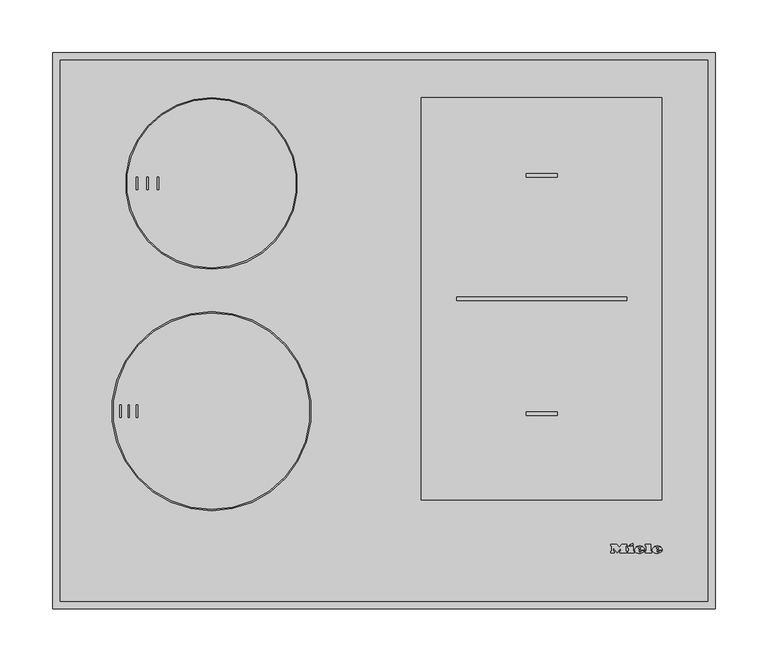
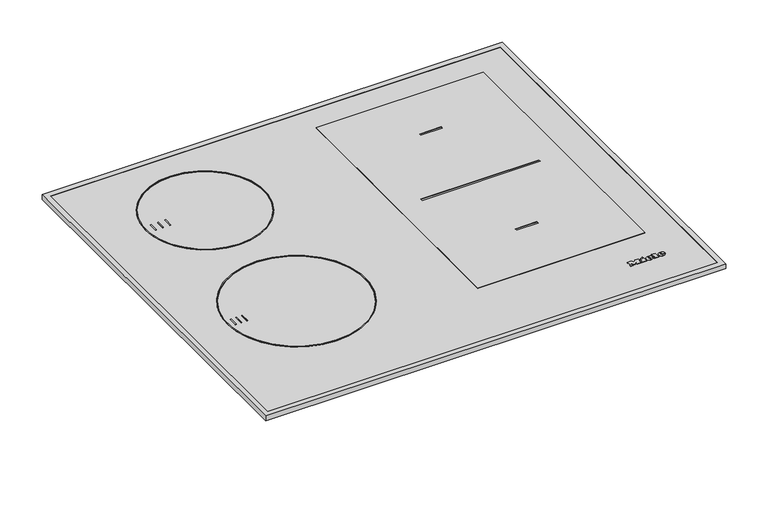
"""IFC4 building model written with IfcOpenShell, lengths in millimetres: proxy geometry, 11022890_D_KM7464FR : 26746400_D_11022890_KM7464FR."""

from ifc_helpers import new_model, si_unit, point, frame, frame_2d, origin, place, context, project, spatial, polyline, circle_curve, ellipse_curve, trimmed, segment, composite_curve, outline, extrude, faceted_brep, source, transform, mapped, element, save
from ifc_brep_helpers import plane_surface, cylinder_surface, revolved_surface, extruded_surface, advanced_brep


def specialty_equipment_9e8c9460(model_context):
    return source(origin(), model_context, "Body", "SolidModel", [
        advanced_brep(
        [(257.66, 54.8948833, 6.4802537), (257.66, 55.7028828, 6.4811551), (263.012, 55.7028828, 6.4811551), (253.7, 55.7028828, 6.4811551), (255.9, 52.9988845, 6.4781386), (262.876, 54.8948833, 6.4802537), (260.46, 54.8948833, 6.4802537), (258.556, 53.9988838, 6.4792542), (257.66, 56.7268821, 6.4822974), (257.66, 57.5988816, 6.4832701), (259.028, 57.5988816, 6.4832701), (259.028, 56.7268821, 6.4822974), (257.66, 54.8959988, 5.4802543), (258.556, 53.9999994, 5.4792548), (260.46, 54.8959988, 5.4802543), (262.876, 54.8959988, 5.4802543), (255.9, 53.0, 5.4781393), (253.7, 55.7039983, 5.4811557), (263.012, 55.7039983, 5.4811557), (257.66, 55.7039983, 5.4811557), (257.66, 56.7279977, 5.482298), (259.028, 56.7279977, 5.482298), (259.028, 57.5999971, 5.4832707), (257.66, 57.5999971, 5.4832707)],
        [
            (0, 1),
            (1, 2),
            (2, 3, ellipse_curve(frame((258.356, 55.7028828, 6.4811551), z_axis=(0.0, -0.0011155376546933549, 0.9999993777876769), x_axis=(-1.0, 0.0, 0.0)), 4.656, 3.848)),
            (3, 4, circle_curve(frame((256.7960436, 55.9748826, 6.4814585), z_axis=(0.0, -0.0011155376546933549, 0.9999993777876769), x_axis=(0.0, -0.9999993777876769, -0.0011155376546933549)), 3.1079688)),
            (4, 5, circle_curve(frame((258.2627936, 58.0868813, 6.4838145), z_axis=(0.0, -0.0011155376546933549, 0.9999993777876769), x_axis=(0.0, -0.9999993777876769, -0.0011155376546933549)), 5.6098607)),
            (5, 6),
            (6, 7, circle_curve(frame((258.9470588, 55.6388828, 6.4810837), z_axis=(0.0, 0.0011155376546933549, -0.9999993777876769), x_axis=(0.0, -0.9999993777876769, -0.0011155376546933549)), 1.6859795)),
            (7, 0, circle_curve(frame((258.556, 54.8948833, 6.4802537), z_axis=(0.0, 0.0011155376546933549, -0.9999993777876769), x_axis=(0.0, -0.9999993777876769, -0.0011155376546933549)), 0.896)),
            (8, 9),
            (9, 10, circle_curve(frame((258.344, 57.5988816, 6.4832701), z_axis=(0.0, 0.0011155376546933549, -0.9999993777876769), x_axis=(0.0, -0.9999993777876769, -0.0011155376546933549)), 0.684)),
            (10, 11),
            (11, 8),
            (12, 13, circle_curve(frame((258.556, 54.8959988, 5.4802543), z_axis=(0.0, -0.0011155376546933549, 0.9999993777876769), x_axis=(0.0, -0.9999993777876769, -0.0011155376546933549)), 0.896)),
            (13, 14, circle_curve(frame((258.9470588, 55.6399984, 5.4810843), z_axis=(0.0, -0.0011155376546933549, 0.9999993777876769), x_axis=(0.0, -0.9999993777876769, -0.0011155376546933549)), 1.6859795)),
            (14, 15),
            (15, 16, circle_curve(frame((258.2627936, 58.0879968, 5.4838151), z_axis=(0.0, 0.0011155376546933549, -0.9999993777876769), x_axis=(0.0, -0.9999993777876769, -0.0011155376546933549)), 5.6098607)),
            (16, 17, circle_curve(frame((256.7960436, 55.9759981, 5.4814591), z_axis=(0.0, 0.0011155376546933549, -0.9999993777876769), x_axis=(0.0, -0.9999993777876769, -0.0011155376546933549)), 3.1079688)),
            (17, 18, ellipse_curve(frame((258.356, 55.7039983, 5.4811557), z_axis=(0.0, 0.0011155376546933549, -0.9999993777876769), x_axis=(-1.0, 0.0, 0.0)), 4.656, 3.848)),
            (18, 19),
            (19, 12),
            (20, 21),
            (21, 22),
            (22, 23, circle_curve(frame((258.344, 57.5999971, 5.4832707), z_axis=(0.0, -0.0011155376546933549, 0.9999993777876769), x_axis=(0.0, -0.9999993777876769, -0.0011155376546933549)), 0.684)),
            (23, 20),
            (0, 12),
            (19, 1),
            (18, 2),
            (5, 15),
            (14, 6),
            (17, 3),
            (13, 7),
            (16, 4),
            (8, 20),
            (23, 9),
            (22, 10),
            (21, 11),
        ],
        [
            plane_surface(frame((257.66, 55.7028828, 6.4811551), z_axis=(0.0, -0.0011155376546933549, 0.9999993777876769), x_axis=(0.0, 0.9999993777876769, 0.0011155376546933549))),
            plane_surface(frame((257.66, 55.7039983, 5.4811557), z_axis=(0.0, 0.0011155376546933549, -0.9999993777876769), x_axis=(0.0, -0.9999993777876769, -0.0011155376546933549))),
            plane_surface(frame((257.66, 54.8948833, 6.4802537), z_axis=(1.0000000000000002, 0.0, 0.0), x_axis=(0.0, 0.001115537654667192, -0.999999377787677))),
            plane_surface(frame((257.66, 55.7028828, 6.4811551), z_axis=(0.0, -0.999999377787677, -0.001115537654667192), x_axis=(0.0, 0.001115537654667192, -0.999999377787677))),
            plane_surface(frame((262.876, 54.8948833, 6.4802537), z_axis=(0.0, 0.999999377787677, 0.001115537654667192), x_axis=(0.0, 0.001115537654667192, -0.999999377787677))),
            extruded_surface(trimmed(ellipse_curve(frame((258.356, 55.7051139, 4.4811563), z_axis=(0.0, -0.0011155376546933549, 0.9999993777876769), x_axis=(-1.0, 0.0, 0.0)), 4.656, 3.848), [point((263.012, 55.7051139, 4.4811563))], [point((253.7, 55.7051139, 4.4811563))], True, "CARTESIAN"), (0.0, -0.001115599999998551, 0.9999994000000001), 1.00000002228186),
            revolved_surface(polyline([(258.9470588, 53.954019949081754, 5.479203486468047), (258.9470588, 53.95290441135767, 6.4792029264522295)]), (258.9470588, 55.6399984, 5.4810843), (0.0, 0.0011155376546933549, -0.9999993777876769)),
            revolved_surface(polyline([(258.556, 53.99999935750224, 5.479254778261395), (258.556, 53.99888381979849, 6.479254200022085)]), (258.556, 54.8959988, 5.4802543), (0.0, 0.0011155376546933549, -0.9999993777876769)),
            cylinder_surface(frame((256.7960436, 55.9759981, 5.4814591), z_axis=(0.0, -0.0011155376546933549, 0.9999993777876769), x_axis=(0.0, -0.9999993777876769, -0.0011155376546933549)), 3.1079688),
            cylinder_surface(frame((258.2627936, 58.0879968, 5.4838151), z_axis=(0.0, -0.0011155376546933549, 0.9999993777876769), x_axis=(0.0, -0.9999993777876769, -0.0011155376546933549)), 5.6098607),
            plane_surface(frame((257.66, 56.7268821, 6.4822974), z_axis=(1.0000000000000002, 0.0, 0.0), x_axis=(0.0, 0.001115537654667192, -0.999999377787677))),
            revolved_surface(polyline([(258.344, 56.915997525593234, 5.48250767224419), (258.344, 56.91488198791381, 6.482507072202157)]), (258.344, 57.5999971, 5.4832707), (0.0, 0.0011155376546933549, -0.9999993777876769)),
            plane_surface(frame((259.028, 57.5988816, 6.4832701), z_axis=(-1.0000000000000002, 0.0, 0.0), x_axis=(0.0, 0.001115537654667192, -0.999999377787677))),
            plane_surface(frame((259.028, 56.7268821, 6.4822974), z_axis=(0.0, 0.999999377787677, 0.001115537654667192), x_axis=(0.0, 0.001115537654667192, -0.999999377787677))),
        ],
        [
            (0, [[1, 2, 3, 4, 5, 6, 7, 8], [9, 10, 11, 12]]),
            (1, [[13, 14, 15, 16, 17, 18, 19, 20], [21, 22, 23, 24]]),
            (2, [[-1, 25, -20, 26]]),
            (3, [[-2, -26, -19, 27]]),
            (4, [[-6, 28, -15, 29]]),
            (5, [[-3, -27, -18, 30]]),
            (6, [[-7, -29, -14, 31]]),
            (7, [[-8, -31, -13, -25]]),
            (8, [[-4, -30, -17, 32]]),
            (9, [[-5, -32, -16, -28]]),
            (10, [[-9, 33, -24, 34]]),
            (11, [[-10, -34, -23, 35]]),
            (12, [[-11, -35, -22, 36]]),
            (13, [[-12, -36, -21, -33]]),
        ],
    ),
        advanced_brep(
        [(240.964, 54.8948833, 6.4802537), (240.964, 55.7028828, 6.4811551), (246.316, 55.7028828, 6.4811551), (237.004, 55.7028828, 6.4811551), (239.204, 52.9988845, 6.4781386), (246.18, 54.8948833, 6.4802537), (243.764, 54.8948833, 6.4802537), (241.86, 53.9988838, 6.4792542), (240.964, 56.7268821, 6.4822974), (240.964, 57.5988816, 6.4832701), (242.332, 57.5988816, 6.4832701), (242.332, 56.7268821, 6.4822974), (240.964, 54.8959988, 5.4802543), (241.86, 53.9999994, 5.4792548), (243.764, 54.8959988, 5.4802543), (246.18, 54.8959988, 5.4802543), (239.204, 53.0, 5.4781393), (237.004, 55.7039983, 5.4811557), (246.316, 55.7039983, 5.4811557), (240.964, 55.7039983, 5.4811557), (240.964, 56.7279977, 5.482298), (242.332, 56.7279977, 5.482298), (242.332, 57.5999971, 5.4832707), (240.964, 57.5999971, 5.4832707)],
        [
            (0, 1),
            (1, 2),
            (2, 3, ellipse_curve(frame((241.66, 55.7028828, 6.4811551), z_axis=(0.0, -0.0011155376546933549, 0.9999993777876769), x_axis=(-1.0, 0.0, 0.0)), 4.656, 3.848)),
            (3, 4, circle_curve(frame((240.1000436, 55.9748826, 6.4814585), z_axis=(0.0, -0.0011155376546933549, 0.9999993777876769), x_axis=(0.0, -0.9999993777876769, -0.0011155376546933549)), 3.1079688)),
            (4, 5, circle_curve(frame((241.5667936, 58.0868813, 6.4838145), z_axis=(0.0, -0.0011155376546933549, 0.9999993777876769), x_axis=(0.0, -0.9999993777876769, -0.0011155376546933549)), 5.6098607)),
            (5, 6),
            (6, 7, circle_curve(frame((242.2510588, 55.6388828, 6.4810837), z_axis=(0.0, 0.0011155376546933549, -0.9999993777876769), x_axis=(0.0, -0.9999993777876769, -0.0011155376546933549)), 1.6859795)),
            (7, 0, circle_curve(frame((241.86, 54.8948833, 6.4802537), z_axis=(0.0, 0.0011155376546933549, -0.9999993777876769), x_axis=(0.0, -0.9999993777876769, -0.0011155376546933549)), 0.896)),
            (8, 9),
            (9, 10, circle_curve(frame((241.648, 57.5988816, 6.4832701), z_axis=(0.0, 0.0011155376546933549, -0.9999993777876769), x_axis=(0.0, -0.9999993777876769, -0.0011155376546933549)), 0.684)),
            (10, 11),
            (11, 8),
            (12, 13, circle_curve(frame((241.86, 54.8959988, 5.4802543), z_axis=(0.0, -0.0011155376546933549, 0.9999993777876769), x_axis=(0.0, -0.9999993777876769, -0.0011155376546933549)), 0.896)),
            (13, 14, circle_curve(frame((242.2510588, 55.6399984, 5.4810843), z_axis=(0.0, -0.0011155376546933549, 0.9999993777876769), x_axis=(0.0, -0.9999993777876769, -0.0011155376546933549)), 1.6859795)),
            (14, 15),
            (15, 16, circle_curve(frame((241.5667936, 58.0879968, 5.4838151), z_axis=(0.0, 0.0011155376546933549, -0.9999993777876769), x_axis=(0.0, -0.9999993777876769, -0.0011155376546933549)), 5.6098607)),
            (16, 17, circle_curve(frame((240.1000436, 55.9759981, 5.4814591), z_axis=(0.0, 0.0011155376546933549, -0.9999993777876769), x_axis=(0.0, -0.9999993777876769, -0.0011155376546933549)), 3.1079688)),
            (17, 18, ellipse_curve(frame((241.66, 55.7039983, 5.4811557), z_axis=(0.0, 0.0011155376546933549, -0.9999993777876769), x_axis=(-1.0, 0.0, 0.0)), 4.656, 3.848)),
            (18, 19),
            (19, 12),
            (20, 21),
            (21, 22),
            (22, 23, circle_curve(frame((241.648, 57.5999971, 5.4832707), z_axis=(0.0, -0.0011155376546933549, 0.9999993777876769), x_axis=(0.0, -0.9999993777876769, -0.0011155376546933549)), 0.684)),
            (23, 20),
            (0, 12),
            (19, 1),
            (18, 2),
            (5, 15),
            (14, 6),
            (17, 3),
            (13, 7),
            (16, 4),
            (8, 20),
            (23, 9),
            (22, 10),
            (21, 11),
        ],
        [
            plane_surface(frame((240.964, 55.7028828, 6.4811551), z_axis=(0.0, -0.0011155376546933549, 0.9999993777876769), x_axis=(0.0, 0.9999993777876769, 0.0011155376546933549))),
            plane_surface(frame((240.964, 55.7039983, 5.4811557), z_axis=(0.0, 0.0011155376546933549, -0.9999993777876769), x_axis=(0.0, -0.9999993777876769, -0.0011155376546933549))),
            plane_surface(frame((240.964, 54.8948833, 6.4802537), z_axis=(1.0000000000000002, 0.0, 0.0), x_axis=(0.0, 0.001115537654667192, -0.999999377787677))),
            plane_surface(frame((240.964, 55.7028828, 6.4811551), z_axis=(0.0, -0.999999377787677, -0.001115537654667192), x_axis=(0.0, 0.001115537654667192, -0.999999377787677))),
            plane_surface(frame((246.18, 54.8948833, 6.4802537), z_axis=(0.0, 0.999999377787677, 0.001115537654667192), x_axis=(0.0, 0.001115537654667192, -0.999999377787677))),
            extruded_surface(trimmed(ellipse_curve(frame((241.66, 55.7051139, 4.4811563), z_axis=(0.0, -0.0011155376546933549, 0.9999993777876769), x_axis=(-1.0, 0.0, 0.0)), 4.656, 3.848), [point((246.316, 55.7051139, 4.4811563))], [point((237.004, 55.7051139, 4.4811563))], True, "CARTESIAN"), (0.0, -0.001115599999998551, 0.9999994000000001), 1.00000002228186),
            revolved_surface(polyline([(242.2510588, 53.954019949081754, 5.479203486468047), (242.2510588, 53.95290441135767, 6.4792029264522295)]), (242.2510588, 55.6399984, 5.4810843), (0.0, 0.0011155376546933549, -0.9999993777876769)),
            revolved_surface(polyline([(241.86, 53.99999935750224, 5.479254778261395), (241.86, 53.99888381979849, 6.479254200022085)]), (241.86, 54.8959988, 5.4802543), (0.0, 0.0011155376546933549, -0.9999993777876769)),
            cylinder_surface(frame((240.1000436, 55.9759981, 5.4814591), z_axis=(0.0, -0.0011155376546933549, 0.9999993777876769), x_axis=(0.0, -0.9999993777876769, -0.0011155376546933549)), 3.1079688),
            cylinder_surface(frame((241.5667936, 58.0879968, 5.4838151), z_axis=(0.0, -0.0011155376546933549, 0.9999993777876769), x_axis=(0.0, -0.9999993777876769, -0.0011155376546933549)), 5.6098607),
            plane_surface(frame((240.964, 56.7268821, 6.4822974), z_axis=(1.0000000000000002, 0.0, 0.0), x_axis=(0.0, 0.001115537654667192, -0.999999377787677))),
            revolved_surface(polyline([(241.648, 56.915997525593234, 5.48250767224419), (241.648, 56.91488198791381, 6.482507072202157)]), (241.648, 57.5999971, 5.4832707), (0.0, 0.0011155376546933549, -0.9999993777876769)),
            plane_surface(frame((242.332, 57.5988816, 6.4832701), z_axis=(-1.0000000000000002, 0.0, 0.0), x_axis=(0.0, 0.001115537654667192, -0.999999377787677))),
            plane_surface(frame((242.332, 56.7268821, 6.4822974), z_axis=(0.0, 0.999999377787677, 0.001115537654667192), x_axis=(0.0, 0.001115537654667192, -0.999999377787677))),
        ],
        [
            (0, [[1, 2, 3, 4, 5, 6, 7, 8], [9, 10, 11, 12]]),
            (1, [[13, 14, 15, 16, 17, 18, 19, 20], [21, 22, 23, 24]]),
            (2, [[-1, 25, -20, 26]]),
            (3, [[-2, -26, -19, 27]]),
            (4, [[-6, 28, -15, 29]]),
            (5, [[-3, -27, -18, 30]]),
            (6, [[-7, -29, -14, 31]]),
            (7, [[-8, -31, -13, -25]]),
            (8, [[-4, -30, -17, 32]]),
            (9, [[-5, -32, -16, -28]]),
            (10, [[-9, 33, -24, 34]]),
            (11, [[-10, -34, -23, 35]]),
            (12, [[-11, -35, -22, 36]]),
            (13, [[-12, -36, -21, -33]]),
        ],
    ),
        extrude(outline(polyline([(0.0, 0.0), (-0.0109086, -2.9993294), (-1.4390415, -2.9920868), (-1.4315307, 0.0), (0.0, 0.0)])), frame((232.22, 60.5279953, 5.486537), z_axis=(0.0, -0.001115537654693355, 0.999999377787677), x_axis=(-0.4247202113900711, 0.9053240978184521, 0.0010099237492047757)), (0.0, 0.0, 1.0), 1.0),
        extrude(outline(polyline([(-0.4933908, 2.4141097), (-2.7800844, -2.4601583), (-7.0459741, -0.4588767), (-7.4401145, -1.299018), (-8.6568709, -0.728194), (-5.9760369, 4.9862153), (-4.7592805, 4.4153913), (-5.1636142, 3.5535222), (-2.1941493, 2.1604399), (-1.7898157, 3.022309), (-0.4933908, 2.4141097)])), frame((232.22, 60.5279953, 5.486537), z_axis=(0.0, -0.001115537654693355, 0.999999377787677), x_axis=(-0.4247202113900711, 0.9053240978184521, 0.0010099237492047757)), (0.0, 0.0, 1.0), 1.0),
        extrude(outline(polyline([(0.0, 0.0), (0.0, -1.304), (-5.504, -1.304), (-5.504, 5.3519999), (-6.488, 5.3519999), (-6.488, 6.696), (0.0, 6.696), (0.0, 5.3519999), (-0.96, 5.3519999), (-0.96, 0.0), (0.0, 0.0)])), frame((246.764, 59.6959958, 5.4856089), z_axis=(0.0, -0.0011155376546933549, 0.9999993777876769), x_axis=(-1.0, 0.0, 0.0)), (0.0, 0.0, 1.0), 1.0),
        extrude(outline(polyline([(0.0, 0.0), (0.0, -1.304), (-5.576, -1.304), (-7.92, 1.696), (-10.256, -1.304), (-15.128, -1.304), (-15.128, 0.0), (-14.112, 0.0), (-14.112, 5.3519999), (-15.128, 5.3519999), (-15.128, 6.696), (-8.744, 6.696), (-8.744, 5.3519999), (-9.728, 5.3519999), (-9.728, 1.8807777), (-6.136, 6.696), (-2.56, 1.9488752), (-2.56, 5.3519999), (-3.52, 5.3519999), (-3.52, 6.696), (0.0, 6.696), (0.0, 5.3519999), (-0.968, 5.3519999), (-0.968, 0.0), (0.0, 0.0)])), frame((214.3, 59.6959958, 5.4856089), z_axis=(0.0, -0.0011155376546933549, 0.9999993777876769), x_axis=(-1.0, 0.0, 0.0)), (0.0, 0.0, 1.0), 1.0),
        extrude(outline(polyline([(310.0, 520.0), (310.0, 1.0), (-310.0, 1.0), (-310.0, 520.0), (310.0, 520.0)])), frame((0.0, 0.0, 2.0), z_axis=(0.0, 0.0, 1.0), x_axis=(1.0, 0.0, 0.0)), (0.0, 0.0, 1.0), 4.0),
        extrude(outline(polyline([(278.5, 506.5), (278.5, 19.5), (-278.5, 19.5), (-278.5, 506.5), (278.5, 506.5)])), frame((0.0, 0.0, -15.2), z_axis=(0.0, 0.0, 1.0), x_axis=(1.0, 0.0, 0.0)), (0.0, 0.0, 1.0), 17.2),
        extrude(outline(polyline([(-202.8, 328.7), (-224.2, 328.7), (-224.2, 412.1), (-202.8, 412.1), (-202.8, 462.3), (203.2, 462.3), (203.2, 91.3), (-202.8, 91.3), (-202.8, 328.7)])), frame((0.0, 0.0, -44.9), z_axis=(0.0, 0.0, 1.0), x_axis=(1.0, 0.0, 0.0)), (0.0, 0.0, 1.0), 29.7),
        faceted_brep([(306.0, 519.0, 7.0), (306.0, 519.0, 6.0), (306.0, 7.0, 6.0), (306.0, 7.0, 7.0), (313.0, 526.0, 0.0), (313.0, 526.0, 7.0), (313.0, 0.0, 7.0), (313.0, 0.0, 0.0), (312.0, 525.0, 6.0), (312.0, 525.0, 0.0), (312.0, 1.0, 0.0), (312.0, 1.0, 6.0), (-306.0, 7.0, 6.0), (-306.0, 7.0, 7.0), (-313.0, 0.0, 7.0), (-313.0, 0.0, 0.0), (-312.0, 1.0, 0.0), (-312.0, 1.0, 6.0), (-306.0, 519.0, 6.0), (-306.0, 519.0, 7.0), (-313.0, 526.0, 7.0), (-313.0, 526.0, 0.0), (-312.0, 525.0, 0.0), (-312.0, 525.0, 6.0)], [[[0, 1, 2, 3]], [[4, 5, 6, 7]], [[8, 9, 10, 11]], [[3, 2, 12, 13]], [[7, 6, 14, 15]], [[11, 10, 16, 17]], [[13, 12, 18, 19]], [[15, 14, 20, 21]], [[17, 16, 22, 23]], [[19, 18, 1, 0]], [[5, 20, 14, 6], [3, 13, 19, 0]], [[21, 20, 5, 4]], [[7, 15, 21, 4], [9, 22, 16, 10]], [[23, 22, 9, 8]], [[11, 17, 23, 8], [1, 18, 12, 2]]]),
        extrude(outline(polyline([(141.2772603, 425.5), (133.9, 425.5), (133.9, 426.7557039), (140.0215564, 426.7557039), (140.0215564, 430.0519266), (134.370889, 430.0519266), (134.370889, 431.3076304), (140.0215564, 431.3076304), (140.0215564, 434.2899271), (134.056963, 434.2899271), (134.056963, 435.545631), (141.2772603, 435.545631), (141.2772603, 425.5)])), frame((0.0, 0.0, -75.9), z_axis=(0.0, 0.0, 1.0), x_axis=(1.0, 0.0, 0.0)), (0.0, 0.0, 1.0), 1.0),
        extrude(outline(polyline([(132.0164442, 425.5), (125.7379248, 425.5), (125.7379248, 426.7557039), (130.7607403, 426.7557039), (130.7607403, 435.545631), (132.0164442, 435.545631), (132.0164442, 425.5)])), frame((0.0, 0.0, -75.9), z_axis=(0.0, 0.0, 1.0), x_axis=(1.0, 0.0, 0.0)), (0.0, 0.0, 1.0), 1.0),
        extrude(outline(composite_curve([segment(trimmed(circle_curve(frame_2d((133.9, 430.5)), 7.5), [point((133.9, 438.0))], [point((133.9, 423.0))], False, "CARTESIAN"), True, "CONTINUOUS"), segment(trimmed(circle_curve(frame_2d((133.9, 430.5)), 7.5), [point((133.9, 423.0))], [point((133.9, 438.0))], False, "CARTESIAN"), True, "CONTINUOUS")], self_intersect=False)), frame((0.0, 0.0, -74.9), z_axis=(0.0, 0.0, 1.0), x_axis=(1.0, 0.0, 0.0)), (0.0, 0.0, 1.0), 30.0),
        extrude(outline(polyline([(262.75, 483.75), (262.75, 103.25), (35.25, 103.25), (35.25, 483.75), (262.75, 483.75)]), holes=[polyline([(229.3, 295.1), (68.7, 295.1), (68.7, 291.9), (229.3, 291.9), (229.3, 295.1)]), polyline([(163.65, 411.85), (134.35, 411.85), (134.35, 408.65), (163.65, 408.65), (163.65, 411.85)]), polyline([(163.65, 186.35), (134.35, 186.35), (134.35, 183.15), (163.65, 183.15), (163.65, 186.35)])]), frame((0.0, 0.0, 6.0), z_axis=(0.0, 0.0, 1.0), x_axis=(1.0, 0.0, 0.0)), (0.0, 0.0, 1.0), 1.0),
        extrude(outline(composite_curve([segment(trimmed(circle_curve(frame_2d((-271.0, 83.0)), 3.0), [point((-271.0, 86.0))], [point((-271.0, 80.0))], False, "CARTESIAN"), True, "CONTINUOUS"), segment(trimmed(circle_curve(frame_2d((-271.0, 83.0)), 3.0), [point((-271.0, 80.0))], [point((-271.0, 86.0))], False, "CARTESIAN"), True, "CONTINUOUS")], self_intersect=False)), frame((0.0, 0.0, -20.4), z_axis=(0.0, 0.0, 1.0), x_axis=(1.0, 0.0, 0.0)), (0.0, 0.0, 1.0), 5.2),
        extrude(outline(composite_curve([segment(trimmed(circle_curve(frame_2d((271.0, 443.0)), 3.0), [point((271.0, 446.0))], [point((271.0, 440.0))], False, "CARTESIAN"), True, "CONTINUOUS"), segment(trimmed(circle_curve(frame_2d((271.0, 443.0)), 3.0), [point((271.0, 440.0))], [point((271.0, 446.0))], False, "CARTESIAN"), True, "CONTINUOUS")], self_intersect=False)), frame((0.0, 0.0, -20.4), z_axis=(0.0, 0.0, 1.0), x_axis=(1.0, 0.0, 0.0)), (0.0, 0.0, 1.0), 5.2),
        extrude(outline(composite_curve([segment(trimmed(circle_curve(frame_2d((-163.0, 402.5)), 81.2), [point((-163.0, 483.7))], [point((-163.0, 321.3))], False, "CARTESIAN"), True, "CONTINUOUS"), segment(trimmed(circle_curve(frame_2d((-163.0, 402.5)), 81.2), [point((-163.0, 321.3))], [point((-163.0, 483.7))], False, "CARTESIAN"), True, "CONTINUOUS")], self_intersect=False), holes=[composite_curve([segment(trimmed(circle_curve(frame_2d((-163.0, 402.5)), 80.0), [point((-163.0, 482.5))], [point((-163.0, 322.5))], True, "CARTESIAN"), True, "CONTINUOUS"), segment(trimmed(circle_curve(frame_2d((-163.0, 402.5)), 80.0), [point((-163.0, 322.5))], [point((-163.0, 482.5))], True, "CARTESIAN"), True, "CONTINUOUS")], self_intersect=False)]), frame((0.0, 0.0, 6.0), z_axis=(0.0, 0.0, 1.0), x_axis=(1.0, 0.0, 0.0)), (0.0, 0.0, 1.0), 1.0),
        extrude(outline(polyline([(-214.2, 408.5), (-213.0, 408.5), (-213.0, 396.5), (-214.2, 396.5), (-214.2, 408.5)])), frame((0.0, 0.0, 6.0), z_axis=(0.0, 0.0, 1.0), x_axis=(1.0, 0.0, 0.0)), (0.0, 0.0, 1.0), 1.0),
        extrude(outline(polyline([(-224.2, 408.5), (-223.0, 408.5), (-223.0, 396.5), (-224.2, 396.5), (-224.2, 408.5)])), frame((0.0, 0.0, 6.0), z_axis=(0.0, 0.0, 1.0), x_axis=(1.0, 0.0, 0.0)), (0.0, 0.0, 1.0), 1.0),
        extrude(outline(polyline([(-234.2, 408.5), (-233.0, 408.5), (-233.0, 396.5), (-234.2, 396.5), (-234.2, 408.5)])), frame((0.0, 0.0, 6.0), z_axis=(0.0, 0.0, 1.0), x_axis=(1.0, 0.0, 0.0)), (0.0, 0.0, 1.0), 1.0),
        extrude(outline(composite_curve([segment(trimmed(circle_curve(frame_2d((-163.0, 187.0)), 94.2), [point((-163.0, 281.2))], [point((-163.0, 92.8))], False, "CARTESIAN"), True, "CONTINUOUS"), segment(trimmed(circle_curve(frame_2d((-163.0, 187.0)), 94.2), [point((-163.0, 92.8))], [point((-163.0, 281.2))], False, "CARTESIAN"), True, "CONTINUOUS")], self_intersect=False), holes=[composite_curve([segment(trimmed(circle_curve(frame_2d((-163.0, 187.0)), 93.0), [point((-163.0, 280.0))], [point((-163.0, 94.0))], True, "CARTESIAN"), True, "CONTINUOUS"), segment(trimmed(circle_curve(frame_2d((-163.0, 187.0)), 93.0), [point((-163.0, 94.0))], [point((-163.0, 280.0))], True, "CARTESIAN"), True, "CONTINUOUS")], self_intersect=False)]), frame((0.0, 0.0, 6.0), z_axis=(0.0, 0.0, 1.0), x_axis=(1.0, 0.0, 0.0)), (0.0, 0.0, 1.0), 1.0),
        extrude(outline(polyline([(-234.2, 193.0), (-233.0, 193.0), (-233.0, 181.0), (-234.2, 181.0), (-234.2, 193.0)])), frame((0.0, 0.0, 6.0), z_axis=(0.0, 0.0, 1.0), x_axis=(1.0, 0.0, 0.0)), (0.0, 0.0, 1.0), 1.0),
        extrude(outline(polyline([(-241.9, 193.0), (-240.7, 193.0), (-240.7, 181.0), (-241.9, 181.0), (-241.9, 193.0)])), frame((0.0, 0.0, 6.0), z_axis=(0.0, 0.0, 1.0), x_axis=(1.0, 0.0, 0.0)), (0.0, 0.0, 1.0), 1.0),
        extrude(outline(polyline([(-249.6, 193.0), (-248.4, 193.0), (-248.4, 181.0), (-249.6, 181.0), (-249.6, 193.0)])), frame((0.0, 0.0, 6.0), z_axis=(0.0, 0.0, 1.0), x_axis=(1.0, 0.0, 0.0)), (0.0, 0.0, 1.0), 1.0),
    ])


if __name__ == "__main__":
    model = new_model("IFC4")
    model_context = context("Model", 3, world=origin())
    ifc_project = project(units=[si_unit("LENGTHUNIT", "METRE", prefix="MILLI")], contexts=[model_context])
    site = spatial("IfcSite", under=ifc_project)
    building = spatial("IfcBuilding", under=site)
    placement = place(None, origin())
    specialty_equipment_shape = specialty_equipment_9e8c9460(model_context)
    element("IfcBuildingElementProxy", 1, Name="11022890_D_KM7464FR : 26746400_D_11022890_KM7464FR", ObjectType="11022890_D_KM7464FR : 26746400_D_11022890_KM7464FR", at=placement, inside=building, context=model_context, shape_type="MappedRepresentation", body=[
        mapped(specialty_equipment_shape, transform((0.0, 0.0, 0.0), x_axis=(1.0, 0.0, 0.0), y_axis=(0.0, 1.0, 0.0), z_axis=(0.0, 0.0, 1.0))),
    ])
    save(model, "model.ifc")
